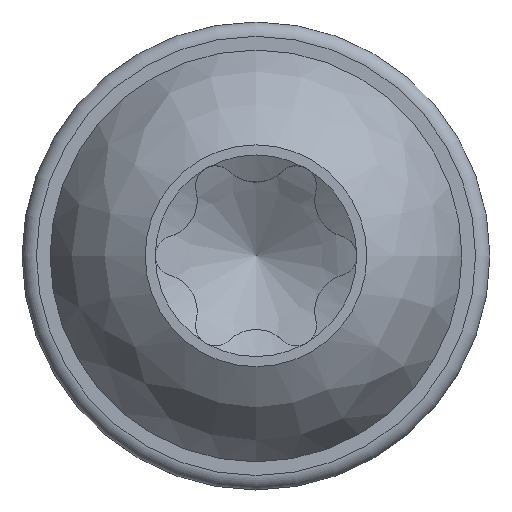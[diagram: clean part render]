
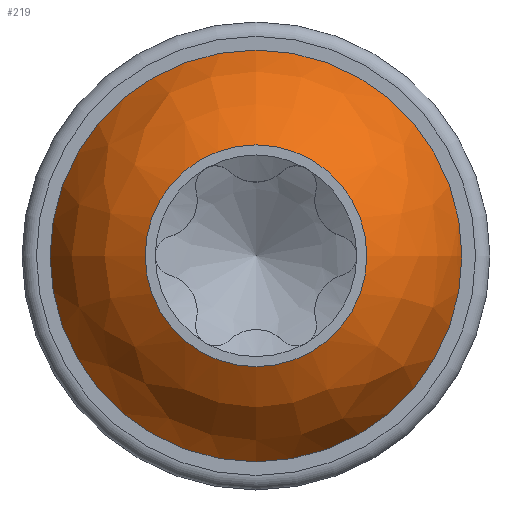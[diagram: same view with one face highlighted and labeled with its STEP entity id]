
A CAD part, top view. The second image highlights one B-rep face of the part: STEP entity #219.
In plain terms, the highlighted free-form (B-spline) face has degree [3, 3] with [4, 7] control points.
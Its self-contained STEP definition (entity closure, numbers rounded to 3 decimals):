
#74=(
BOUNDED_SURFACE()
B_SPLINE_SURFACE(3,3,((#2267,#2268,#2269,#2270,#2271,#2272,#2273),(#2274,
#2275,#2276,#2277,#2278,#2279,#2280),(#2281,#2282,#2283,#2284,#2285,#2286,
#2287),(#2288,#2289,#2290,#2291,#2292,#2293,#2294)),.UNSPECIFIED.,.F.,.T.,
 .F.)
B_SPLINE_SURFACE_WITH_KNOTS((4,4),(1,3,3,3,1),(0.,1.),(-0.5,0.,0.5,1.,1.5),
 .UNSPECIFIED.)
GEOMETRIC_REPRESENTATION_ITEM()
RATIONAL_B_SPLINE_SURFACE(((1.,0.333,0.333,1.,0.333,
0.333,1.),(0.948,0.316,0.316,
0.948,0.316,0.316,0.948),
(0.948,0.316,0.316,0.948,
0.316,0.316,0.948),(1.,0.333,
0.333,1.,0.333,0.333,1.)))
REPRESENTATION_ITEM('')
SURFACE()
);
#187=FACE_BOUND('',#374,.T.);
#188=FACE_BOUND('',#375,.T.);
#219=ADVANCED_FACE('',(#187,#188),#74,.T.);
#374=EDGE_LOOP('',(#511));
#375=EDGE_LOOP('',(#512));
#455=CIRCLE('',#1143,2.86);
#456=CIRCLE('',#1145,1.54);
#511=ORIENTED_EDGE('',*,*,#918,.F.);
#512=ORIENTED_EDGE('',*,*,#917,.T.);
#815=VERTEX_POINT('',#2263);
#816=VERTEX_POINT('',#2266);
#917=EDGE_CURVE('',#815,#815,#455,.T.);
#918=EDGE_CURVE('',#816,#816,#456,.T.);
#1143=AXIS2_PLACEMENT_3D('',#2262,#1218,#1219);
#1145=AXIS2_PLACEMENT_3D('',#2265,#1222,#1223);
#1218=DIRECTION('',(0.,0.,1.));
#1219=DIRECTION('',(1.,0.,0.));
#1222=DIRECTION('',(0.,0.,1.));
#1223=DIRECTION('',(1.,0.,0.));
#2262=CARTESIAN_POINT('',(0.,0.,0.8));
#2263=CARTESIAN_POINT('',(2.86,0.,0.8));
#2265=CARTESIAN_POINT('',(0.,0.,2.3));
#2266=CARTESIAN_POINT('',(1.54,0.,2.3));
#2267=CARTESIAN_POINT('',(1.54,0.,2.3));
#2268=CARTESIAN_POINT('',(1.54,3.08,2.3));
#2269=CARTESIAN_POINT('',(-1.54,3.08,2.3));
#2270=CARTESIAN_POINT('',(-1.54,0.,2.3));
#2271=CARTESIAN_POINT('',(-1.54,-3.08,2.3));
#2272=CARTESIAN_POINT('',(1.54,-3.08,2.3));
#2273=CARTESIAN_POINT('',(1.54,0.,2.3));
#2274=CARTESIAN_POINT('',(2.171,0.,1.993));
#2275=CARTESIAN_POINT('',(2.171,4.343,1.993));
#2276=CARTESIAN_POINT('',(-2.171,4.343,1.993));
#2277=CARTESIAN_POINT('',(-2.171,0.,1.993));
#2278=CARTESIAN_POINT('',(-2.171,-4.343,1.993));
#2279=CARTESIAN_POINT('',(2.171,-4.343,1.993));
#2280=CARTESIAN_POINT('',(2.171,0.,1.993));
#2281=CARTESIAN_POINT('',(2.635,0.,1.465));
#2282=CARTESIAN_POINT('',(2.635,5.271,1.465));
#2283=CARTESIAN_POINT('',(-2.635,5.271,1.465));
#2284=CARTESIAN_POINT('',(-2.635,0.,1.465));
#2285=CARTESIAN_POINT('',(-2.635,-5.271,1.465));
#2286=CARTESIAN_POINT('',(2.635,-5.271,1.465));
#2287=CARTESIAN_POINT('',(2.635,0.,1.465));
#2288=CARTESIAN_POINT('',(2.86,0.,0.8));
#2289=CARTESIAN_POINT('',(2.86,5.72,0.8));
#2290=CARTESIAN_POINT('',(-2.86,5.72,0.8));
#2291=CARTESIAN_POINT('',(-2.86,0.,0.8));
#2292=CARTESIAN_POINT('',(-2.86,-5.72,0.8));
#2293=CARTESIAN_POINT('',(2.86,-5.72,0.8));
#2294=CARTESIAN_POINT('',(2.86,0.,0.8));
